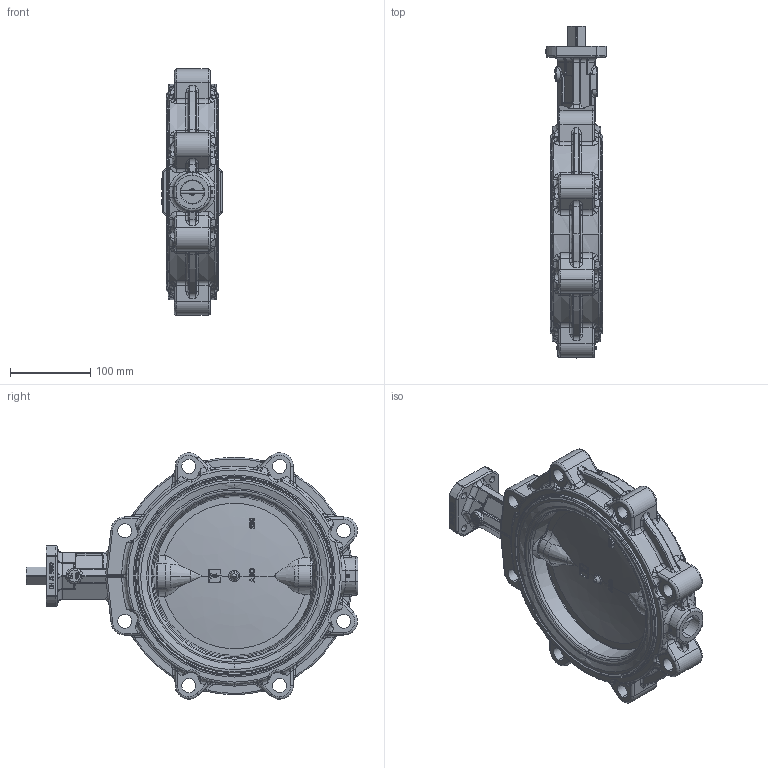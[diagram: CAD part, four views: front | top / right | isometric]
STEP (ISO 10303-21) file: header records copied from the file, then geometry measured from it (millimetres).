
FILE_DESCRIPTION (( 'STEP AP203' ), '1' );
FILE_NAME ('4832062_Axel-Larsson.step', '2023-10-04T14:03:10', ( '' ), ( '' ), 'SwSTEP 2.0', 'SolidWorks 2014', '' );
FILE_SCHEMA (( 'CONFIG_CONTROL_DESIGN' ));
Length unit declared in the file: millimetre
Products named in the file (1): 4832062_Axel-Larsson
Bounding box: 76 x 413 x 306.54 mm (x, y, z)
Volume: 2560777.1 mm3; surface area: 310531 mm2
Topology: 5 solids, 13 shells, 1661 faces, 4218 edges, 2524 vertices
Faces by surface type: bspline 779, cylinder 438, plane 360, cone 84
Entity records: 84206 total; most frequent: CARTESIAN_POINT 49820, ORIENTED_EDGE 8226, DIRECTION 5778, EDGE_CURVE 4113, VERTEX_POINT 2524, AXIS2_PLACEMENT_3D 2260, EDGE_LOOP 1753, FACE_OUTER_BOUND 1661
